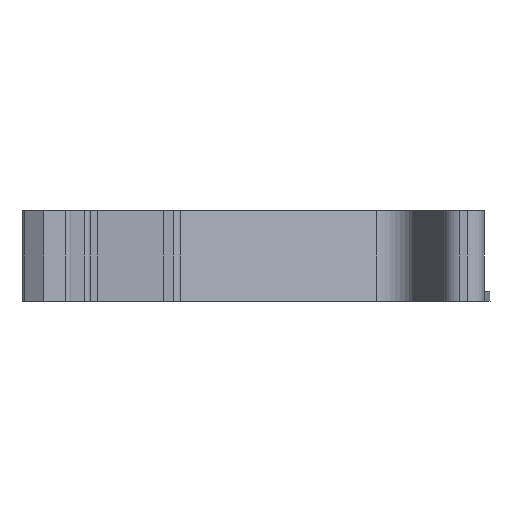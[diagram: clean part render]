
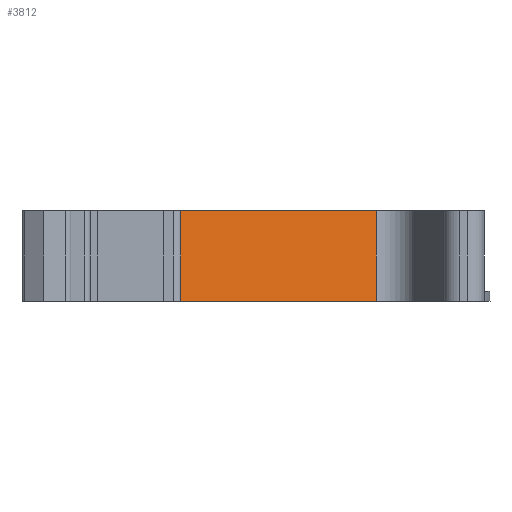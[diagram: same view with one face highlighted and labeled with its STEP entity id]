
A CAD part, front view. The second image highlights one B-rep face of the part: STEP entity #3812.
In plain terms, the highlighted planar face has unit normal (0.288, -0.958, 0).
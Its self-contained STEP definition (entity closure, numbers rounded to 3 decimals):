
#3773=CARTESIAN_POINT('',(31.588,18.277,-0.5));
#3774=DIRECTION('',(-0.957,-0.288,0.));
#3775=DIRECTION('',(0.288,-0.957,0.));
#3776=AXIS2_PLACEMENT_3D('',#3773,#3775,#3774);
#3777=PLANE('',#3776);
#3778=CARTESIAN_POINT('',(21.826,15.337,-5.));
#3779=VERTEX_POINT('',#3778);
#3780=CARTESIAN_POINT('',(41.35,21.218,-5.));
#3781=VERTEX_POINT('',#3780);
#3782=CARTESIAN_POINT('',(21.826,15.337,-5.));
#3783=DIRECTION('',(0.957,0.288,0.));
#3784=VECTOR('',#3783,20.39);
#3785=LINE('',#3782,#3784);
#3786=EDGE_CURVE('',#3779,#3781,#3785,.T.);
#3787=ORIENTED_EDGE('E351',*,*,#3786,.T.);
#3788=CARTESIAN_POINT('',(41.35,21.218,4.));
#3789=VERTEX_POINT('',#3788);
#3790=CARTESIAN_POINT('',(41.35,21.218,-5.));
#3791=DIRECTION('',(0.,0.,1.));
#3792=VECTOR('',#3791,9.);
#3793=LINE('',#3790,#3792);
#3794=EDGE_CURVE('',#3781,#3789,#3793,.T.);
#3795=ORIENTED_EDGE('E352',*,*,#3794,.T.);
#3796=CARTESIAN_POINT('',(21.826,15.337,4.));
#3797=VERTEX_POINT('',#3796);
#3798=CARTESIAN_POINT('',(41.35,21.218,4.));
#3799=DIRECTION('',(-0.957,-0.288,0.));
#3800=VECTOR('',#3799,20.39);
#3801=LINE('',#3798,#3800);
#3802=EDGE_CURVE('',#3789,#3797,#3801,.T.);
#3803=ORIENTED_EDGE('E353',*,*,#3802,.T.);
#3804=CARTESIAN_POINT('',(21.826,15.337,4.));
#3805=DIRECTION('',(0.,0.,-1.));
#3806=VECTOR('',#3805,9.);
#3807=LINE('',#3804,#3806);
#3808=EDGE_CURVE('',#3797,#3779,#3807,.T.);
#3809=ORIENTED_EDGE('E354',*,*,#3808,.T.);
#3810=EDGE_LOOP('',(#3787,#3795,#3803,#3809));
#3811=FACE_OUTER_BOUND('',#3810,.T.);
#3812=ADVANCED_FACE('F114',(#3811),#3777,.T.);
